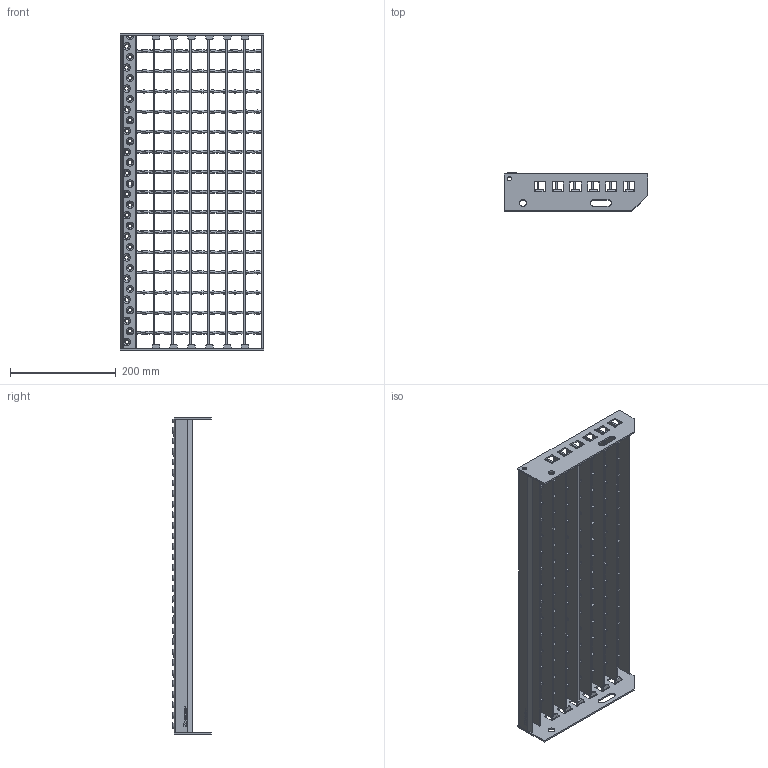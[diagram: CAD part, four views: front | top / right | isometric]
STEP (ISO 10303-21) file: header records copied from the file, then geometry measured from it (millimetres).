
FILE_DESCRIPTION(/* description */ (''),/* implementation_level */ '2;1');
FILE_NAME(/* name */ 'M:\Abteilung\TB\Inventor\Haverkotte\Lager STEP\SP-Stufen\SP 330-34 38-3\SP 330-34 38-3 600mm x 270mm.stp',/* time_stamp */ '2019-11-14T14:24:38+01:00',/* author */ ('Krolikowski'),/* organization */ (''),/* preprocessor_version */ 'ST-DEVELOPER v17.2',/* originating_system */ 'Autodesk Inventor 2019',/* authorisation */ '');
FILE_SCHEMA (('AUTOMOTIVE_DESIGN { 1 0 10303 214 3 1 1 }'));
Length unit declared in the file: millimetre
Products named in the file (8): Stufe SP; Seitenplatte ausgeklinkt links; Seitenplatte 240 ausgeklinkt extern rechts; Schod nášlap; SP Rošt schodu; Nosny pas; Krouceny drat; Hinteres Flach
Assembly tree (27 placements, depth 3):
  Stufe SP
    Seitenplatte ausgeklinkt links
    Seitenplatte 240 ausgeklinkt extern rechts
    Schod nášlap
    SP Rošt schodu
      Nosny pas  x7
      Krouceny drat  x15
      Hinteres Flach
Bounding box: 271.31 x 72.75 x 600 mm (x, y, z)
Volume: 646129.8 mm3; surface area: 523739.8 mm2
Topology: 26 solids, 26 shells, 934 faces, 2585 edges, 1720 vertices
Faces by surface type: plane 493, cylinder 237, cone 90, bspline 84, torus 30
Full cylindrical faces by diameter (mm): 8 x2, 13 x2
Entity records: 26457 total; most frequent: CARTESIAN_POINT 8724, DIRECTION 3649, ORIENTED_EDGE 3610, EDGE_CURVE 1805, AXIS2_PLACEMENT_3D 1263, VERTEX_POINT 1200, LINE 1123, VECTOR 1123
